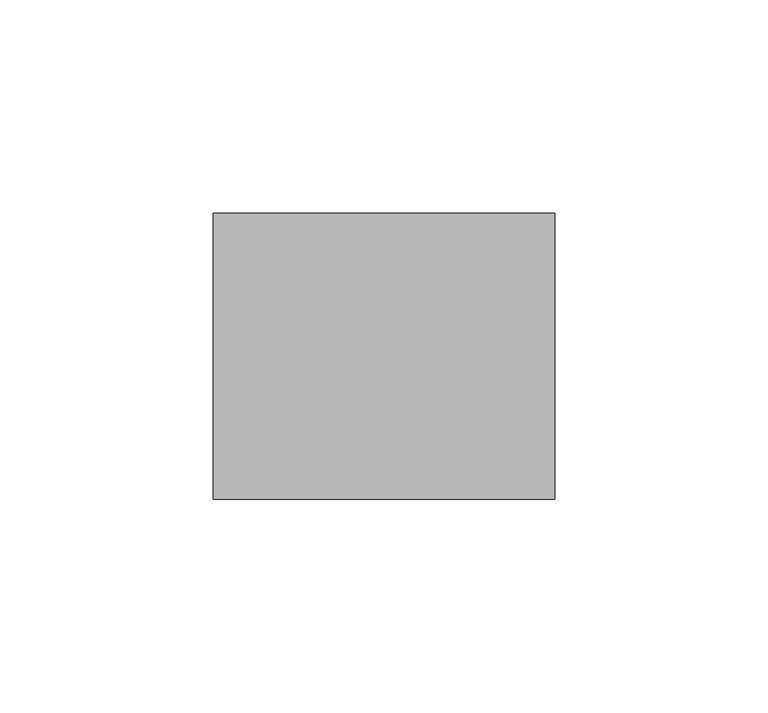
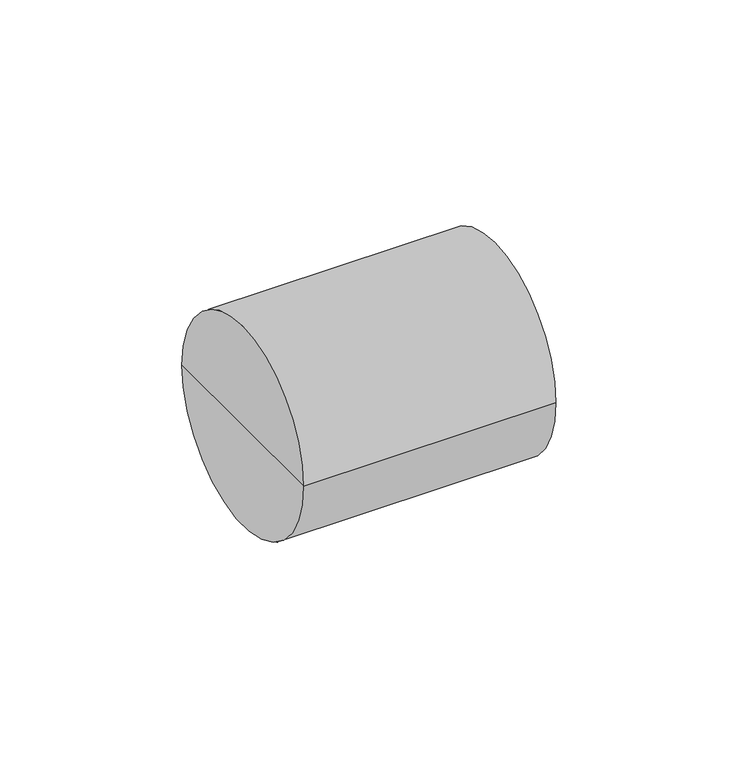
"""IFC4 building model written with IfcOpenShell, lengths in millimetres: cable carrier fitting geometry, Муфта_соединительная_для_двустенной_трубы : Муфта соединительная для двухстенной трубы D63мм."""

import ifcopenshell
import ifcopenshell.guid

model = None  # the IFC model being written
_history = None  # IfcOwnerHistory: only IFC2X3 demands one
_inside = {}  # id of a spatial element -> (the spatial element, [elements in it])
_under = {}  # id of a project, library or spatial element -> (it, [spatial elements below it])
_declared = {}  # id of a project -> (the project, [libraries it declares])
_typed = {}  # id of a type object -> (the type object, [elements of that type])
_made_of = {}  # id of a material, layer set ... -> (it, [elements and type objects made of it])


def new_model(schema):
    """Start an empty IFC model of exactly this schema.

    Asked for "IFC4X3", IfcOpenShell would pick the latest addendum, in which some entities
    have other attributes; the version numbers below select the first issue.
    IFC2X3 requires an IfcOwnerHistory on every rooted entity: one is made here for all.
    """
    global model, _history
    if schema == "IFC4X3":
        model = ifcopenshell.file(schema_version=(4, 3, 0, 0))
    else:
        model = ifcopenshell.file(schema=schema)
    _inside.clear()
    _under.clear()
    _declared.clear()
    _typed.clear()
    _made_of.clear()
    _history = None
    if model.schema == "IFC2X3":
        org = make("IfcOrganization", Name="unknown")
        user = make(
            "IfcPersonAndOrganization",
            ThePerson=make("IfcPerson", FamilyName="unknown"),
            TheOrganization=org,
        )
        app = make(
            "IfcApplication",
            ApplicationDeveloper=org,
            Version="unknown",
            ApplicationFullName="unknown",
            ApplicationIdentifier="unknown",
        )
        _history = make(
            "IfcOwnerHistory",
            OwningUser=user,
            OwningApplication=app,
            ChangeAction="ADDED",
            CreationDate=0,
        )
    return model


def make(cls, **values):
    """One entity of the class cls with the attributes given. An attribute that is None is left unset."""
    return model.create_entity(
        cls, **{name: value for name, value in values.items() if value is not None}
    )


def rooted(cls, **values):
    """An entity with a GlobalId (a new one), such as an element, a storey or a relation."""
    return make(cls, GlobalId=ifcopenshell.guid.new(), OwnerHistory=_history, **values)


def si_unit(unit_type, name, prefix=None):
    """IfcSIUnit, for example si_unit("LENGTHUNIT", "METRE", prefix="MILLI")."""
    return make("IfcSIUnit", UnitType=unit_type, Prefix=prefix, Name=name)


def assignment(units):
    """IfcUnitAssignment: the units of a project."""
    return None if units is None else make("IfcUnitAssignment", Units=units)


def point(xyz):
    """IfcCartesianPoint."""
    return None if xyz is None else make("IfcCartesianPoint", Coordinates=xyz)


def direction(xyz):
    """IfcDirection."""
    return None if xyz is None else make("IfcDirection", DirectionRatios=xyz)


def frame(location, z_axis=None, x_axis=None):
    """IfcAxis2Placement3D, a coordinate frame: its origin and axes. An axis left out is left unset."""
    return make(
        "IfcAxis2Placement3D",
        Location=point(location),
        Axis=direction(z_axis),
        RefDirection=direction(x_axis),
    )


def origin():
    """The frame at (0, 0, 0) with its axes left unset."""
    return frame((0.0, 0.0, 0.0))


def place(relative_to, where):
    """IfcLocalPlacement: puts the frame where relative to a parent placement (None: the world)."""
    return make(
        "IfcLocalPlacement", PlacementRelTo=relative_to, RelativePlacement=where
    )


def context(
    kind, dimensions, precision=None, world=None, true_north=None, identifier=None
):
    """IfcGeometricRepresentationContext, for example the 3D "Model" context."""
    return make(
        "IfcGeometricRepresentationContext",
        ContextIdentifier=identifier,
        ContextType=kind,
        CoordinateSpaceDimension=dimensions,
        Precision=precision,
        WorldCoordinateSystem=world,
        TrueNorth=true_north,
    )


def project(units=None, contexts=None):
    """IfcProject with its units and contexts."""
    return rooted(
        "IfcProject",
        Name="project",
        RepresentationContexts=contexts,
        UnitsInContext=assignment(units),
    )


def spatial(cls, under=None, at=None, **own):
    """A site, building, storey or space (cls), placed at a placement, below another one or the project."""
    s = rooted(cls, ObjectPlacement=at, **own)
    if under is not None:
        _under.setdefault(under.id(), (under, []))[1].append(s)
    return s


def circle_curve(where, radius):
    """IfcCircle in the frame where."""
    return make("IfcCircle", Position=where, Radius=radius)


def shape(context_of_items, identifier, shape_type, items):
    """IfcShapeRepresentation: the items that make up one representation, for example the "Body"."""
    return make(
        "IfcShapeRepresentation",
        ContextOfItems=context_of_items,
        RepresentationIdentifier=identifier,
        RepresentationType=shape_type,
        Items=items,
    )


def source(mapping_origin, context_of_items, identifier, shape_type, items):
    """IfcRepresentationMap: a shape defined once, which mapped items show again and again."""
    return make(
        "IfcRepresentationMap",
        MappingOrigin=mapping_origin,
        MappedRepresentation=shape(context_of_items, identifier, shape_type, items),
    )


def transform(
    local_origin,
    x_axis=None,
    y_axis=None,
    z_axis=None,
    scale=None,
    scale2=None,
    scale3=None,
    uniform=True,
):
    """IfcCartesianTransformationOperator3D, or its non-uniform kind. x_axis, y_axis, z_axis: its Axis1, 2, 3."""
    if uniform:
        return make(
            "IfcCartesianTransformationOperator3D",
            Axis1=direction(x_axis),
            Axis2=direction(y_axis),
            LocalOrigin=point(local_origin),
            Scale=scale,
            Axis3=direction(z_axis),
        )
    return make(
        "IfcCartesianTransformationOperator3DnonUniform",
        Axis1=direction(x_axis),
        Axis2=direction(y_axis),
        LocalOrigin=point(local_origin),
        Scale=scale,
        Axis3=direction(z_axis),
        Scale2=scale2,
        Scale3=scale3,
    )


def mapped(mapping_source, mapping_target):
    """IfcMappedItem: shows the shape of a source again, moved by a transform."""
    return make(
        "IfcMappedItem", MappingSource=mapping_source, MappingTarget=mapping_target
    )


def made_of(thing, what):
    """Note that an element or type object is made of a material, layer set ...; save() writes the relation."""
    if what is not None:
        _made_of.setdefault(what.id(), (what, []))[1].append(thing)
    return thing


def element(
    cls,
    number,
    at=None,
    inside=None,
    cuts=None,
    type_object=None,
    material=None,
    context=None,
    identifier="Body",
    shape_type=None,
    held_by="IfcProductDefinitionShape",
    body=None,
    shapes=None,
    **own,
):
    """One element of the class cls, such as IfcWall. Its Tag is "e" and its number.

    at: its placement. inside: the storey or other place that contains it. cuts: it is an
    opening in that element (IfcRelVoidsElement). A single representation is given by context,
    identifier, shape_type and body (its items); several are given by shapes. held_by: the class
    of the entity that holds the representations. save() writes the other relations.
    """
    e = rooted(cls, Tag="e%d" % number, ObjectPlacement=at, **own)
    if body is not None:
        shapes = [shape(context, identifier, shape_type, body)]
    if shapes is not None:
        e.Representation = make(held_by, Representations=shapes)
    if inside is not None:
        _inside.setdefault(inside.id(), (inside, []))[1].append(e)
    if cuts is not None:
        rooted(
            "IfcRelVoidsElement", RelatingBuildingElement=cuts, RelatedOpeningElement=e
        )
    if type_object is not None:
        _typed.setdefault(type_object.id(), (type_object, []))[1].append(e)
    return made_of(e, material)


def aggregate(whole, parts):
    """IfcRelAggregates: a whole, such as a stair, and the parts it consists of."""
    return rooted("IfcRelAggregates", RelatingObject=whole, RelatedObjects=parts)


def save(model, path):
    """Write the relations noted so far, then the file.

    IfcRelAggregates (storeys below a building ...), IfcRelContainedInSpatialStructure (elements
    in a storey), IfcRelDefinesByType, IfcRelAssociatesMaterial and IfcRelDeclares: one each for
    every whole, place, type object, material and project.
    """
    for whole, parts in _under.values():
        aggregate(whole, parts)
    for where, things in _inside.values():
        rooted(
            "IfcRelContainedInSpatialStructure",
            RelatedElements=things,
            RelatingStructure=where,
        )
    for kind, things in _typed.values():
        rooted("IfcRelDefinesByType", RelatedObjects=things, RelatingType=kind)
    for what, things in _made_of.values():
        rooted("IfcRelAssociatesMaterial", RelatedObjects=things, RelatingMaterial=what)
    for by, libraries in _declared.values():
        rooted("IfcRelDeclares", RelatingContext=by, RelatedDefinitions=libraries)
    model.write(path)


def plane_surface(at):
    """IfcPlane: the flat surface through the origin of the frame at, square to its z axis."""
    return make("IfcPlane", Position=at)


def cylinder_surface(at, radius):
    """IfcCylindricalSurface: all points at the distance radius from the z axis of the frame at."""
    return make("IfcCylindricalSurface", Position=at, Radius=radius)


def advanced_brep(points, edges, surfaces, faces):
    """IfcAdvancedBrep: a solid bounded by faces that lie on surfaces and meet in shared edges.

    An edge is (start, end): straight between two places in points (the first is 0);
    or (start, end, curve); or (start, end, curve, False) where it runs against its curve.
    A face is (place in surfaces, loops), or (place, loops, False) where it looks against
    its surface's normal. A loop lists edges by number (the first is 1), with a minus sign
    where the edge is run from its end to its start. The first loop is the outer one.
    """
    corners = [point(p) for p in points]
    vertices = [make("IfcVertexPoint", VertexGeometry=c) for c in corners]
    made = []
    for start, end, *more in edges:
        made.append(
            make(
                "IfcEdgeCurve",
                EdgeStart=vertices[start],
                EdgeEnd=vertices[end],
                EdgeGeometry=more[0] if more else make("IfcPolyline", Points=[corners[start], corners[end]]),
                SameSense=more[1] if len(more) > 1 else True,
            )
        )
    hull = []
    for where, loops, *sense in faces:
        bounds = []
        for j, loop in enumerate(loops):
            ring = [make("IfcOrientedEdge", EdgeElement=made[abs(k) - 1], Orientation=k > 0) for k in loop]
            bounds.append(
                make(
                    "IfcFaceOuterBound" if j == 0 else "IfcFaceBound",
                    Bound=make("IfcEdgeLoop", EdgeList=ring),
                    Orientation=True,
                )
            )
        hull.append(make("IfcAdvancedFace", Bounds=bounds, FaceSurface=surfaces[where], SameSense=sense[0] if sense else True))
    return make("IfcAdvancedBrep", Outer=make("IfcClosedShell", CfsFaces=hull))


def cable_carrier_fitting_da104670(model_context):
    return source(origin(), model_context, "Body", "AdvancedBrep", [
        advanced_brep(
        [(-40.0, -33.5, 0.0), (-40.0, 33.5, 0.0), (40.0, 33.5, 0.0), (40.0, -33.5, 0.0), (-40.0, 0.0, 0.0), (40.0, 0.0, 0.0)],
        [
            (0, 1, circle_curve(frame((-40.0, 0.0, 0.0), z_axis=(1.0, 0.0, 0.0), x_axis=(0.0, 1.0, 0.0)), 33.5)),
            (1, 2),
            (2, 3, circle_curve(frame((40.0, 0.0, 0.0), z_axis=(-1.0, 0.0, 0.0), x_axis=(0.0, 1.0, 0.0)), 33.5)),
            (3, 0),
            (1, 0, circle_curve(frame((-40.0, 0.0, 0.0), z_axis=(1.0, 0.0, 0.0), x_axis=(0.0, 1.0, 0.0)), 33.5)),
            (3, 2, circle_curve(frame((40.0, 0.0, 0.0), z_axis=(-1.0, 0.0, 0.0), x_axis=(0.0, 1.0, 0.0)), 33.5)),
            (4, 1),
            (0, 4),
            (2, 5),
            (5, 3),
        ],
        [
            cylinder_surface(frame((1965.0, 0.0, 0.0), z_axis=(-1.0, 0.0, 0.0), x_axis=(0.0, 1.0, 0.0)), 33.5),
            plane_surface(frame((-40.0, 0.0, 0.0), z_axis=(-1.0, 0.0, 0.0), x_axis=(0.0, 1.0, 0.0))),
            plane_surface(frame((40.0, 0.0, 0.0), z_axis=(1.0, 0.0, 0.0), x_axis=(0.0, 1.0, 0.0))),
        ],
        [
            (0, [[1, 2, 3, 4]]),
            (0, [[5, -4, 6, -2]]),
            (1, [[7, -1, 8]]),
            (1, [[-8, -5, -7]]),
            (2, [[-3, 9, 10]]),
            (2, [[-6, -10, -9]]),
        ],
    ),
    ])


if __name__ == "__main__":
    model = new_model("IFC4")
    model_context = context("Model", 3, world=origin())
    ifc_project = project(units=[si_unit("LENGTHUNIT", "METRE", prefix="MILLI")], contexts=[model_context])
    site = spatial("IfcSite", under=ifc_project)
    building = spatial("IfcBuilding", under=site)
    placement = place(None, origin())
    cable_carrier_fitting_shape = cable_carrier_fitting_da104670(model_context)
    element("IfcCableCarrierFitting", 1, ObjectType="Муфта_соединительная_для_двустенной_трубы : Муфта соединительная для двухстенной трубы D63мм", at=placement, inside=building, context=model_context, shape_type="MappedRepresentation", body=[
        mapped(cable_carrier_fitting_shape, transform((0.0, 0.0, 0.0), x_axis=(1.0, 0.0, 0.0), y_axis=(0.0, 1.0, 0.0), z_axis=(0.0, 0.0, 1.0))),
    ])
    save(model, "model.ifc")
